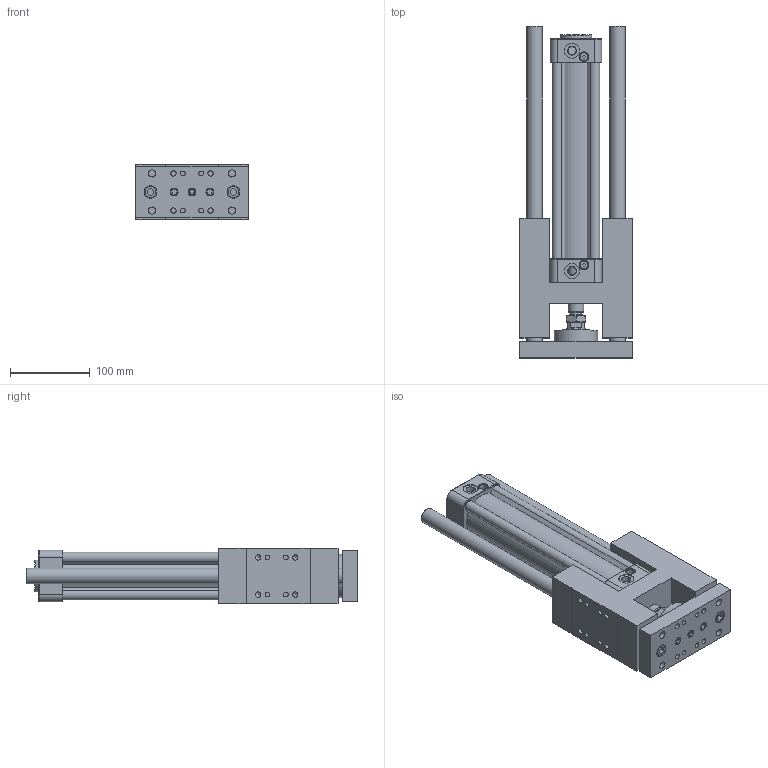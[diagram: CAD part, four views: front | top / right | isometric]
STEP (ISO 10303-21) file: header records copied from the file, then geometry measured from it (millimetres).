
FILE_DESCRIPTION((''),'2;1');
FILE_NAME('I:\3D電子目錄\氣缸\GHB(U)\GHB(U)\GHB(U)50\GHB(U)50x200.stp','2007-10-19T16:40:36',('Administrator'),(''),'Autodesk Inventor 11','Autodesk Inventor 11','');
FILE_SCHEMA(('AUTOMOTIVE_DESIGN { 1 0 10303 214 1 1 1 1 }'));
Length unit declared in the file: millimetre
Products named in the file (1): GHB(U)50
Bounding box: 141 x 416 x 70 mm (x, y, z)
Volume: 1642243.3 mm3; surface area: 351653.4 mm2
Topology: 1 solids, 13 shells, 779 faces, 1736 edges, 1075 vertices
Faces by surface type: plane 299, bspline 222, cylinder 163, cone 88, torus 7
Full cylindrical faces by diameter (mm): 2.5 x2, 6 x8, 6.647 x4, 6.7 x2, 6.75 x4, 7.25 x2, 7.4 x4, 7.5 x2, 8.5 x9, 9 x2, 9.8 x4, 10 x5, 11.5 x1, 11.9 x1, 12 x3, 13 x4, 14 x8, 14.5 x2, 16 x3, 19 x2, 20 x4, 23 x1, 25 x1, 26 x2, 40 x1, 50 x1, 54 x1
Entity records: 22633 total; most frequent: CARTESIAN_POINT 7068, DIRECTION 3100, ORIENTED_EDGE 3020, EDGE_CURVE 1510, AXIS2_PLACEMENT_3D 1202, EDGE_LOOP 1071, VERTEX_POINT 1029, FACE_OUTER_BOUND 778
